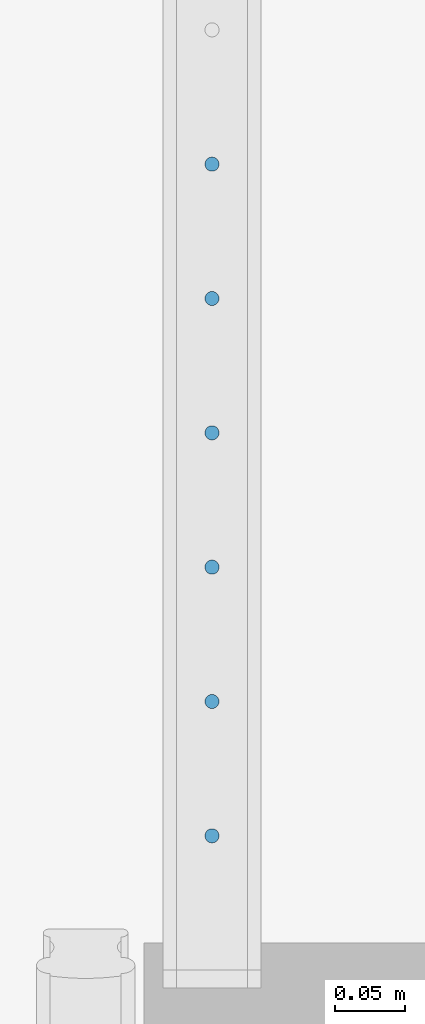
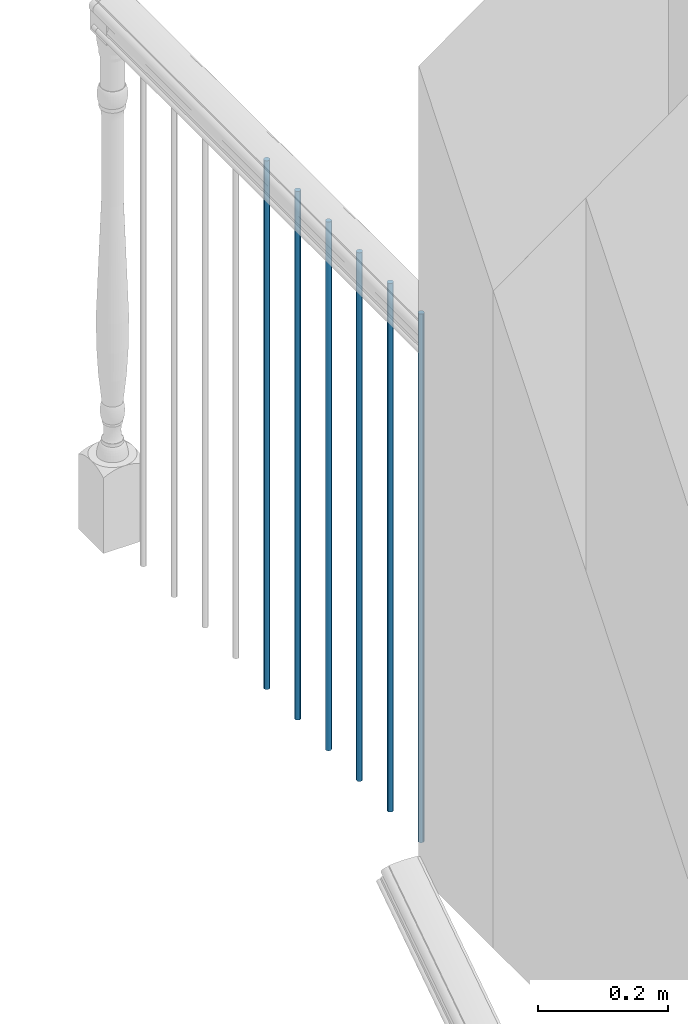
# One storey, part 25 of 77: 6 building element parts, 1 element without a shape of its own.
"""IFC2X3 building model written with IfcOpenShell, lengths in inches."""

from ifc_helpers import new_model, entity, si_unit, converted_unit, derived_unit, money_unit, direction, frame, origin_with_axes, place, context, subcontext, project, spatial, faceted_brep, material, type_object, element, aggregate, save


model = new_model("IFC2X3")

# Units and contexts
model_context = context("Model", 3, precision=0.000393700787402, world=origin_with_axes(), true_north=direction((0.0, 1.0)))
body_context = subcontext(model_context, "Body", "Model", "MODEL_VIEW")
ifc_project = project(units=[converted_unit("LENGTHUNIT", "INCH", entity("IfcPositiveLengthMeasure", 0.0254), si_unit("LENGTHUNIT", "METRE"), dimensions=[1, 0, 0, 0, 0, 0, 0]), converted_unit("AREAUNIT", "SQUARE_FOOT", entity("IfcPositiveLengthMeasure", 0.09290304), si_unit("AREAUNIT", "SQUARE_METRE"), dimensions=[2, 0, 0, 0, 0, 0, 0]), si_unit("PLANEANGLEUNIT", "RADIAN"), si_unit("SOLIDANGLEUNIT", "STERADIAN"), money_unit("USD"), converted_unit("TIMEUNIT", "Year", entity("IfcTimeMeasure", 31556926.0), si_unit("TIMEUNIT", "SECOND"), dimensions=[0, 0, 1, 0, 0, 0, 0]), si_unit("MASSUNIT", "GRAM", prefix="KILO"), si_unit("THERMODYNAMICTEMPERATUREUNIT", "DEGREE_CELSIUS"), si_unit("LUMINOUSINTENSITYUNIT", "LUMEN"), si_unit("ENERGYUNIT", "JOULE", prefix="MEGA"), derived_unit("THERMALCONDUCTANCEUNIT", [(si_unit("POWERUNIT", "WATT"), 1), (si_unit("LENGTHUNIT", "METRE"), -1), (si_unit("THERMODYNAMICTEMPERATUREUNIT", "KELVIN"), -1)]), derived_unit("SPECIFICHEATCAPACITYUNIT", [(si_unit("ENERGYUNIT", "JOULE"), 1), (si_unit("MASSUNIT", "GRAM", prefix="KILO"), -1), (si_unit("THERMODYNAMICTEMPERATUREUNIT", "KELVIN"), -1)]), derived_unit("MASSDENSITYUNIT", [(si_unit("MASSUNIT", "GRAM", prefix="KILO"), 1), (si_unit("VOLUMEUNIT", "CUBIC_METRE"), -1)])], contexts=[model_context])

# Site, building, storey
site_placement = place(None, origin_with_axes())
site = spatial("IfcSite", under=ifc_project, at=site_placement, Name="Site", CompositionType="ELEMENT")
building_placement = place(site_placement, origin_with_axes())
building = spatial("IfcBuilding", under=site, at=building_placement, Name="Building", CompositionType="ELEMENT")
storey_placement = place(building_placement, frame((0.0, 0.0, 127.952755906), z_axis=(0.0, 0.0, 1.0), x_axis=(1.0, 0.0, 0.0)))
storey = spatial("IfcBuildingStorey", under=building, at=storey_placement, Name="Second Floor", CompositionType="ELEMENT", Elevation=127.953)

# Railing, building element parts
railing_type = type_object("IfcRailingType", Name="Railing Type", PredefinedType="NOTDEFINED")
railing_placement = place(storey_placement, frame((726.989643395, 142.006727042, 0.0), z_axis=(0.0, 0.0, 1.0), x_axis=(-1.0, 0.0, 0.0)))
railing = element("IfcRailing", 1, at=railing_placement, inside=storey, type_object=railing_type, Name="RAILING - 001", PredefinedType="NOTDEFINED")
ifc_material = material(Name="Steel - Structural")
building_element_part_1_placement = place(railing_placement, origin_with_axes())
building_element_part_1 = element("IfcBuildingElementPart", 2, at=building_element_part_1_placement, material=ifc_material, Name="Steel - Structural", context=body_context, shape_type="Brep", body=[
    faceted_brep([(-1.96850393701, 18.5599108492, -4.94161422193e-07), (-1.93432122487, 18.562901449, -4.94161422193e-07), (-1.93432122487, 18.562901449, 39.2125984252), (-1.96850393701, 18.5599108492, 39.2125984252), (-2.00268664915, 18.562901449, -4.94161422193e-07), (-2.03583073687, 18.5717823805, -4.94161422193e-07), (-2.06692913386, 18.5862838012, -4.94161422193e-07), (-2.09503693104, 18.6059650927, -4.94161422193e-07), (-2.11930008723, 18.6302282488, -4.94161422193e-07), (-2.1389813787, 18.658336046, -4.94161422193e-07), (-2.15348279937, 18.689434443, -4.94161422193e-07), (-2.16236373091, 18.7225785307, -4.94161422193e-07), (-2.16535433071, 18.7567612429, -4.94161422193e-07), (-2.16236373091, 18.790943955, -4.94161422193e-07), (-2.15348279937, 18.8240880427, -4.94161422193e-07), (-2.1389813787, 18.8551864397, -4.94161422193e-07), (-2.11930008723, 18.8832942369, -4.94161422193e-07), (-2.09503693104, 18.9075573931, -4.94161422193e-07), (-2.06692913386, 18.9272386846, -4.94161422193e-07), (-2.03583073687, 18.9417401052, -4.94161422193e-07), (-2.00268664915, 18.9506210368, -4.94161422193e-07), (-1.96850393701, 18.9536116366, -4.94161422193e-07), (-1.93432122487, 18.9506210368, -4.94161422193e-07), (-1.90117713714, 18.9417401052, -4.94161422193e-07), (-1.87007874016, 18.9272386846, -4.94161422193e-07), (-1.84197094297, 18.9075573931, -4.94161422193e-07), (-1.81770778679, 18.8832942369, -4.94161422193e-07), (-1.79802649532, 18.8551864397, -4.94161422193e-07), (-1.78352507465, 18.8240880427, -4.94161422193e-07), (-1.77464414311, 18.790943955, -4.94161422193e-07), (-1.77165354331, 18.7567612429, -4.94161422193e-07), (-1.77464414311, 18.7225785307, -4.94161422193e-07), (-1.78352507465, 18.689434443, -4.94161422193e-07), (-1.79802649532, 18.658336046, -4.94161422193e-07), (-1.81770778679, 18.6302282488, -4.94161422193e-07), (-1.84197094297, 18.6059650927, -4.94161422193e-07), (-1.87007874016, 18.5862838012, -4.94161422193e-07), (-1.90117713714, 18.5717823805, -4.94161422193e-07), (-1.90117713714, 18.5717823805, 39.2125984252), (-1.87007874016, 18.5862838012, 39.2125984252), (-1.84197094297, 18.6059650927, 39.2125984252), (-1.81770778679, 18.6302282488, 39.2125984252), (-1.79802649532, 18.658336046, 39.2125984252), (-1.78352507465, 18.689434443, 39.2125984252), (-1.77464414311, 18.7225785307, 39.2125984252), (-1.77165354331, 18.7567612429, 39.2125984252), (-1.77464414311, 18.790943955, 39.2125984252), (-1.78352507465, 18.8240880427, 39.2125984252), (-1.79802649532, 18.8551864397, 39.2125984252), (-1.81770778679, 18.8832942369, 39.2125984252), (-1.84197094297, 18.9075573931, 39.2125984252), (-1.87007874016, 18.9272386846, 39.2125984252), (-1.90117713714, 18.9417401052, 39.2125984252), (-1.93432122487, 18.9506210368, 39.2125984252), (-1.96850393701, 18.9536116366, 39.2125984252), (-2.00268664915, 18.9506210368, 39.2125984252), (-2.03583073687, 18.9417401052, 39.2125984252), (-2.06692913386, 18.9272386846, 39.2125984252), (-2.09503693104, 18.9075573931, 39.2125984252), (-2.11930008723, 18.8832942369, 39.2125984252), (-2.1389813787, 18.8551864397, 39.2125984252), (-2.15348279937, 18.8240880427, 39.2125984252), (-2.16236373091, 18.790943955, 39.2125984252), (-2.16535433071, 18.7567612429, 39.2125984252), (-2.16236373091, 18.7225785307, 39.2125984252), (-2.15348279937, 18.689434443, 39.2125984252), (-2.1389813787, 18.658336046, 39.2125984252), (-2.11930008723, 18.6302282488, 39.2125984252), (-2.09503693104, 18.6059650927, 39.2125984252), (-2.06692913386, 18.5862838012, 39.2125984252), (-2.03583073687, 18.5717823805, 39.2125984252), (-2.00268664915, 18.562901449, 39.2125984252)], [[[0, 1, 2, 3]], [[0, 4, 5, 6, 7, 8, 9, 10, 11, 12, 13, 14, 15, 16, 17, 18, 19, 20, 21, 22, 23, 24, 25, 26, 27, 28, 29, 30, 31, 32, 33, 34, 35, 36, 37, 1]], [[1, 37, 38, 2]], [[3, 2, 38, 39, 40, 41, 42, 43, 44, 45, 46, 47, 48, 49, 50, 51, 52, 53, 54, 55, 56, 57, 58, 59, 60, 61, 62, 63, 64, 65, 66, 67, 68, 69, 70, 71]], [[4, 0, 3, 71]], [[5, 4, 71, 70]], [[6, 5, 70, 69]], [[7, 6, 69, 68]], [[8, 7, 68, 67]], [[9, 8, 67, 66]], [[10, 9, 66, 65]], [[11, 10, 65, 64]], [[12, 11, 64, 63]], [[13, 12, 63, 62]], [[14, 13, 62, 61]], [[15, 14, 61, 60]], [[16, 15, 60, 59]], [[17, 16, 59, 58]], [[18, 17, 58, 57]], [[19, 18, 57, 56]], [[20, 19, 56, 55]], [[21, 20, 55, 54]], [[22, 21, 54, 53]], [[23, 22, 53, 52]], [[24, 23, 52, 51]], [[25, 24, 51, 50]], [[26, 25, 50, 49]], [[27, 26, 49, 48]], [[28, 27, 48, 47]], [[29, 28, 47, 46]], [[30, 29, 46, 45]], [[31, 30, 45, 44]], [[32, 31, 44, 43]], [[33, 32, 43, 42]], [[34, 33, 42, 41]], [[35, 34, 41, 40]], [[36, 35, 40, 39]], [[37, 36, 39, 38]]]),
])
building_element_part_2_placement = place(railing_placement, origin_with_axes())
building_element_part_2 = element("IfcBuildingElementPart", 3, at=building_element_part_2_placement, material=ifc_material, Name="Steel - Structural", context=body_context, shape_type="Brep", body=[
    faceted_brep([(-1.96850393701, 22.3112630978, -4.94161422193e-07), (-1.93432122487, 22.3142536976, -4.94161422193e-07), (-1.93432122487, 22.3142536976, 39.2125984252), (-1.96850393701, 22.3112630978, 39.2125984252), (-2.00268664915, 22.3142536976, -4.94161422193e-07), (-2.03583073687, 22.3231346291, -4.94161422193e-07), (-2.06692913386, 22.3376360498, -4.94161422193e-07), (-2.09503693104, 22.3573173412, -4.94161422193e-07), (-2.11930008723, 22.3815804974, -4.94161422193e-07), (-2.1389813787, 22.4096882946, -4.94161422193e-07), (-2.15348279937, 22.4407866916, -4.94161422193e-07), (-2.16236373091, 22.4739307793, -4.94161422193e-07), (-2.16535433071, 22.5081134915, -4.94161422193e-07), (-2.16236373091, 22.5422962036, -4.94161422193e-07), (-2.15348279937, 22.5754402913, -4.94161422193e-07), (-2.1389813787, 22.6065386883, -4.94161422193e-07), (-2.11930008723, 22.6346464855, -4.94161422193e-07), (-2.09503693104, 22.6589096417, -4.94161422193e-07), (-2.06692913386, 22.6785909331, -4.94161422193e-07), (-2.03583073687, 22.6930923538, -4.94161422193e-07), (-2.00268664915, 22.7019732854, -4.94161422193e-07), (-1.96850393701, 22.7049638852, -4.94161422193e-07), (-1.93432122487, 22.7019732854, -4.94161422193e-07), (-1.90117713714, 22.6930923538, -4.94161422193e-07), (-1.87007874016, 22.6785909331, -4.94161422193e-07), (-1.84197094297, 22.6589096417, -4.94161422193e-07), (-1.81770778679, 22.6346464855, -4.94161422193e-07), (-1.79802649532, 22.6065386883, -4.94161422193e-07), (-1.78352507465, 22.5754402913, -4.94161422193e-07), (-1.77464414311, 22.5422962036, -4.94161422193e-07), (-1.77165354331, 22.5081134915, -4.94161422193e-07), (-1.77464414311, 22.4739307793, -4.94161422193e-07), (-1.78352507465, 22.4407866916, -4.94161422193e-07), (-1.79802649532, 22.4096882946, -4.94161422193e-07), (-1.81770778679, 22.3815804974, -4.94161422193e-07), (-1.84197094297, 22.3573173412, -4.94161422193e-07), (-1.87007874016, 22.3376360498, -4.94161422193e-07), (-1.90117713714, 22.3231346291, -4.94161422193e-07), (-1.90117713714, 22.3231346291, 39.2125984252), (-1.87007874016, 22.3376360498, 39.2125984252), (-1.84197094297, 22.3573173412, 39.2125984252), (-1.81770778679, 22.3815804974, 39.2125984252), (-1.79802649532, 22.4096882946, 39.2125984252), (-1.78352507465, 22.4407866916, 39.2125984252), (-1.77464414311, 22.4739307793, 39.2125984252), (-1.77165354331, 22.5081134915, 39.2125984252), (-1.77464414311, 22.5422962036, 39.2125984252), (-1.78352507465, 22.5754402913, 39.2125984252), (-1.79802649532, 22.6065386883, 39.2125984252), (-1.81770778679, 22.6346464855, 39.2125984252), (-1.84197094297, 22.6589096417, 39.2125984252), (-1.87007874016, 22.6785909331, 39.2125984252), (-1.90117713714, 22.6930923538, 39.2125984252), (-1.93432122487, 22.7019732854, 39.2125984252), (-1.96850393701, 22.7049638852, 39.2125984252), (-2.00268664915, 22.7019732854, 39.2125984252), (-2.03583073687, 22.6930923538, 39.2125984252), (-2.06692913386, 22.6785909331, 39.2125984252), (-2.09503693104, 22.6589096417, 39.2125984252), (-2.11930008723, 22.6346464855, 39.2125984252), (-2.1389813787, 22.6065386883, 39.2125984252), (-2.15348279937, 22.5754402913, 39.2125984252), (-2.16236373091, 22.5422962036, 39.2125984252), (-2.16535433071, 22.5081134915, 39.2125984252), (-2.16236373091, 22.4739307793, 39.2125984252), (-2.15348279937, 22.4407866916, 39.2125984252), (-2.1389813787, 22.4096882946, 39.2125984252), (-2.11930008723, 22.3815804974, 39.2125984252), (-2.09503693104, 22.3573173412, 39.2125984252), (-2.06692913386, 22.3376360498, 39.2125984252), (-2.03583073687, 22.3231346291, 39.2125984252), (-2.00268664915, 22.3142536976, 39.2125984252)], [[[0, 1, 2, 3]], [[0, 4, 5, 6, 7, 8, 9, 10, 11, 12, 13, 14, 15, 16, 17, 18, 19, 20, 21, 22, 23, 24, 25, 26, 27, 28, 29, 30, 31, 32, 33, 34, 35, 36, 37, 1]], [[1, 37, 38, 2]], [[3, 2, 38, 39, 40, 41, 42, 43, 44, 45, 46, 47, 48, 49, 50, 51, 52, 53, 54, 55, 56, 57, 58, 59, 60, 61, 62, 63, 64, 65, 66, 67, 68, 69, 70, 71]], [[4, 0, 3, 71]], [[5, 4, 71, 70]], [[6, 5, 70, 69]], [[7, 6, 69, 68]], [[8, 7, 68, 67]], [[9, 8, 67, 66]], [[10, 9, 66, 65]], [[11, 10, 65, 64]], [[12, 11, 64, 63]], [[13, 12, 63, 62]], [[14, 13, 62, 61]], [[15, 14, 61, 60]], [[16, 15, 60, 59]], [[17, 16, 59, 58]], [[18, 17, 58, 57]], [[19, 18, 57, 56]], [[20, 19, 56, 55]], [[21, 20, 55, 54]], [[22, 21, 54, 53]], [[23, 22, 53, 52]], [[24, 23, 52, 51]], [[25, 24, 51, 50]], [[26, 25, 50, 49]], [[27, 26, 49, 48]], [[28, 27, 48, 47]], [[29, 28, 47, 46]], [[30, 29, 46, 45]], [[31, 30, 45, 44]], [[32, 31, 44, 43]], [[33, 32, 43, 42]], [[34, 33, 42, 41]], [[35, 34, 41, 40]], [[36, 35, 40, 39]], [[37, 36, 39, 38]]]),
])
building_element_part_3_placement = place(railing_placement, origin_with_axes())
building_element_part_3 = element("IfcBuildingElementPart", 4, at=building_element_part_3_placement, material=ifc_material, Name="Steel - Structural", context=body_context, shape_type="Brep", body=[
    faceted_brep([(-1.96850393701, 26.0626153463, -4.94161422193e-07), (-1.93432122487, 26.0656059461, -4.94161422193e-07), (-1.93432122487, 26.0656059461, 39.2125984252), (-1.96850393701, 26.0626153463, 39.2125984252), (-2.00268664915, 26.0656059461, -4.94161422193e-07), (-2.03583073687, 26.0744868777, -4.94161422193e-07), (-2.06692913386, 26.0889882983, -4.94161422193e-07), (-2.09503693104, 26.1086695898, -4.94161422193e-07), (-2.11930008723, 26.132932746, -4.94161422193e-07), (-2.1389813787, 26.1610405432, -4.94161422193e-07), (-2.15348279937, 26.1921389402, -4.94161422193e-07), (-2.16236373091, 26.2252830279, -4.94161422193e-07), (-2.16535433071, 26.25946574, -4.94161422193e-07), (-2.16236373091, 26.2936484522, -4.94161422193e-07), (-2.15348279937, 26.3267925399, -4.94161422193e-07), (-2.1389813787, 26.3578909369, -4.94161422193e-07), (-2.11930008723, 26.3859987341, -4.94161422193e-07), (-2.09503693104, 26.4102618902, -4.94161422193e-07), (-2.06692913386, 26.4299431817, -4.94161422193e-07), (-2.03583073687, 26.4444446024, -4.94161422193e-07), (-2.00268664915, 26.4533255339, -4.94161422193e-07), (-1.96850393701, 26.4563161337, -4.94161422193e-07), (-1.93432122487, 26.4533255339, -4.94161422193e-07), (-1.90117713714, 26.4444446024, -4.94161422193e-07), (-1.87007874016, 26.4299431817, -4.94161422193e-07), (-1.84197094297, 26.4102618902, -4.94161422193e-07), (-1.81770778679, 26.3859987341, -4.94161422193e-07), (-1.79802649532, 26.3578909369, -4.94161422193e-07), (-1.78352507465, 26.3267925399, -4.94161422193e-07), (-1.77464414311, 26.2936484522, -4.94161422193e-07), (-1.77165354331, 26.25946574, -4.94161422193e-07), (-1.77464414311, 26.2252830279, -4.94161422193e-07), (-1.78352507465, 26.1921389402, -4.94161422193e-07), (-1.79802649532, 26.1610405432, -4.94161422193e-07), (-1.81770778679, 26.132932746, -4.94161422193e-07), (-1.84197094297, 26.1086695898, -4.94161422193e-07), (-1.87007874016, 26.0889882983, -4.94161422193e-07), (-1.90117713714, 26.0744868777, -4.94161422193e-07), (-1.90117713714, 26.0744868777, 39.2125984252), (-1.87007874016, 26.0889882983, 39.2125984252), (-1.84197094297, 26.1086695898, 39.2125984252), (-1.81770778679, 26.132932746, 39.2125984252), (-1.79802649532, 26.1610405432, 39.2125984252), (-1.78352507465, 26.1921389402, 39.2125984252), (-1.77464414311, 26.2252830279, 39.2125984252), (-1.77165354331, 26.25946574, 39.2125984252), (-1.77464414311, 26.2936484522, 39.2125984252), (-1.78352507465, 26.3267925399, 39.2125984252), (-1.79802649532, 26.3578909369, 39.2125984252), (-1.81770778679, 26.3859987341, 39.2125984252), (-1.84197094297, 26.4102618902, 39.2125984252), (-1.87007874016, 26.4299431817, 39.2125984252), (-1.90117713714, 26.4444446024, 39.2125984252), (-1.93432122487, 26.4533255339, 39.2125984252), (-1.96850393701, 26.4563161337, 39.2125984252), (-2.00268664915, 26.4533255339, 39.2125984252), (-2.03583073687, 26.4444446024, 39.2125984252), (-2.06692913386, 26.4299431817, 39.2125984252), (-2.09503693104, 26.4102618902, 39.2125984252), (-2.11930008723, 26.3859987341, 39.2125984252), (-2.1389813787, 26.3578909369, 39.2125984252), (-2.15348279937, 26.3267925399, 39.2125984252), (-2.16236373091, 26.2936484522, 39.2125984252), (-2.16535433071, 26.25946574, 39.2125984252), (-2.16236373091, 26.2252830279, 39.2125984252), (-2.15348279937, 26.1921389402, 39.2125984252), (-2.1389813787, 26.1610405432, 39.2125984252), (-2.11930008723, 26.132932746, 39.2125984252), (-2.09503693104, 26.1086695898, 39.2125984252), (-2.06692913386, 26.0889882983, 39.2125984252), (-2.03583073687, 26.0744868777, 39.2125984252), (-2.00268664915, 26.0656059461, 39.2125984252)], [[[0, 1, 2, 3]], [[0, 4, 5, 6, 7, 8, 9, 10, 11, 12, 13, 14, 15, 16, 17, 18, 19, 20, 21, 22, 23, 24, 25, 26, 27, 28, 29, 30, 31, 32, 33, 34, 35, 36, 37, 1]], [[1, 37, 38, 2]], [[3, 2, 38, 39, 40, 41, 42, 43, 44, 45, 46, 47, 48, 49, 50, 51, 52, 53, 54, 55, 56, 57, 58, 59, 60, 61, 62, 63, 64, 65, 66, 67, 68, 69, 70, 71]], [[4, 0, 3, 71]], [[5, 4, 71, 70]], [[6, 5, 70, 69]], [[7, 6, 69, 68]], [[8, 7, 68, 67]], [[9, 8, 67, 66]], [[10, 9, 66, 65]], [[11, 10, 65, 64]], [[12, 11, 64, 63]], [[13, 12, 63, 62]], [[14, 13, 62, 61]], [[15, 14, 61, 60]], [[16, 15, 60, 59]], [[17, 16, 59, 58]], [[18, 17, 58, 57]], [[19, 18, 57, 56]], [[20, 19, 56, 55]], [[21, 20, 55, 54]], [[22, 21, 54, 53]], [[23, 22, 53, 52]], [[24, 23, 52, 51]], [[25, 24, 51, 50]], [[26, 25, 50, 49]], [[27, 26, 49, 48]], [[28, 27, 48, 47]], [[29, 28, 47, 46]], [[30, 29, 46, 45]], [[31, 30, 45, 44]], [[32, 31, 44, 43]], [[33, 32, 43, 42]], [[34, 33, 42, 41]], [[35, 34, 41, 40]], [[36, 35, 40, 39]], [[37, 36, 39, 38]]]),
])
building_element_part_4_placement = place(railing_placement, origin_with_axes())
building_element_part_4 = element("IfcBuildingElementPart", 5, at=building_element_part_4_placement, material=ifc_material, Name="Steel - Structural", context=body_context, shape_type="Brep", body=[
    faceted_brep([(-1.96850393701, 29.8139675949, -4.94161422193e-07), (-1.93432122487, 29.8169581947, -4.94161422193e-07), (-1.93432122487, 29.8169581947, 39.2125984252), (-1.96850393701, 29.8139675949, 39.2125984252), (-2.00268664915, 29.8169581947, -4.94161422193e-07), (-2.03583073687, 29.8258391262, -4.94161422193e-07), (-2.06692913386, 29.8403405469, -4.94161422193e-07), (-2.09503693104, 29.8600218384, -4.94161422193e-07), (-2.11930008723, 29.8842849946, -4.94161422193e-07), (-2.1389813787, 29.9123927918, -4.94161422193e-07), (-2.15348279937, 29.9434911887, -4.94161422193e-07), (-2.16236373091, 29.9766352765, -4.94161422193e-07), (-2.16535433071, 30.0108179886, -4.94161422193e-07), (-2.16236373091, 30.0450007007, -4.94161422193e-07), (-2.15348279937, 30.0781447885, -4.94161422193e-07), (-2.1389813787, 30.1092431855, -4.94161422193e-07), (-2.11930008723, 30.1373509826, -4.94161422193e-07), (-2.09503693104, 30.1616141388, -4.94161422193e-07), (-2.06692913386, 30.1812954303, -4.94161422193e-07), (-2.03583073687, 30.195796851, -4.94161422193e-07), (-2.00268664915, 30.2046777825, -4.94161422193e-07), (-1.96850393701, 30.2076683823, -4.94161422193e-07), (-1.93432122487, 30.2046777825, -4.94161422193e-07), (-1.90117713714, 30.195796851, -4.94161422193e-07), (-1.87007874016, 30.1812954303, -4.94161422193e-07), (-1.84197094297, 30.1616141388, -4.94161422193e-07), (-1.81770778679, 30.1373509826, -4.94161422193e-07), (-1.79802649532, 30.1092431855, -4.94161422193e-07), (-1.78352507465, 30.0781447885, -4.94161422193e-07), (-1.77464414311, 30.0450007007, -4.94161422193e-07), (-1.77165354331, 30.0108179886, -4.94161422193e-07), (-1.77464414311, 29.9766352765, -4.94161422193e-07), (-1.78352507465, 29.9434911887, -4.94161422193e-07), (-1.79802649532, 29.9123927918, -4.94161422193e-07), (-1.81770778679, 29.8842849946, -4.94161422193e-07), (-1.84197094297, 29.8600218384, -4.94161422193e-07), (-1.87007874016, 29.8403405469, -4.94161422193e-07), (-1.90117713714, 29.8258391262, -4.94161422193e-07), (-1.90117713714, 29.8258391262, 39.2125984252), (-1.87007874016, 29.8403405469, 39.2125984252), (-1.84197094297, 29.8600218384, 39.2125984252), (-1.81770778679, 29.8842849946, 39.2125984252), (-1.79802649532, 29.9123927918, 39.2125984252), (-1.78352507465, 29.9434911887, 39.2125984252), (-1.77464414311, 29.9766352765, 39.2125984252), (-1.77165354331, 30.0108179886, 39.2125984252), (-1.77464414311, 30.0450007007, 39.2125984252), (-1.78352507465, 30.0781447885, 39.2125984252), (-1.79802649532, 30.1092431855, 39.2125984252), (-1.81770778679, 30.1373509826, 39.2125984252), (-1.84197094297, 30.1616141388, 39.2125984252), (-1.87007874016, 30.1812954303, 39.2125984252), (-1.90117713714, 30.195796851, 39.2125984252), (-1.93432122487, 30.2046777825, 39.2125984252), (-1.96850393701, 30.2076683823, 39.2125984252), (-2.00268664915, 30.2046777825, 39.2125984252), (-2.03583073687, 30.195796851, 39.2125984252), (-2.06692913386, 30.1812954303, 39.2125984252), (-2.09503693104, 30.1616141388, 39.2125984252), (-2.11930008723, 30.1373509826, 39.2125984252), (-2.1389813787, 30.1092431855, 39.2125984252), (-2.15348279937, 30.0781447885, 39.2125984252), (-2.16236373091, 30.0450007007, 39.2125984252), (-2.16535433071, 30.0108179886, 39.2125984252), (-2.16236373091, 29.9766352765, 39.2125984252), (-2.15348279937, 29.9434911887, 39.2125984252), (-2.1389813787, 29.9123927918, 39.2125984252), (-2.11930008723, 29.8842849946, 39.2125984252), (-2.09503693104, 29.8600218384, 39.2125984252), (-2.06692913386, 29.8403405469, 39.2125984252), (-2.03583073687, 29.8258391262, 39.2125984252), (-2.00268664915, 29.8169581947, 39.2125984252)], [[[0, 1, 2, 3]], [[0, 4, 5, 6, 7, 8, 9, 10, 11, 12, 13, 14, 15, 16, 17, 18, 19, 20, 21, 22, 23, 24, 25, 26, 27, 28, 29, 30, 31, 32, 33, 34, 35, 36, 37, 1]], [[1, 37, 38, 2]], [[3, 2, 38, 39, 40, 41, 42, 43, 44, 45, 46, 47, 48, 49, 50, 51, 52, 53, 54, 55, 56, 57, 58, 59, 60, 61, 62, 63, 64, 65, 66, 67, 68, 69, 70, 71]], [[4, 0, 3, 71]], [[5, 4, 71, 70]], [[6, 5, 70, 69]], [[7, 6, 69, 68]], [[8, 7, 68, 67]], [[9, 8, 67, 66]], [[10, 9, 66, 65]], [[11, 10, 65, 64]], [[12, 11, 64, 63]], [[13, 12, 63, 62]], [[14, 13, 62, 61]], [[15, 14, 61, 60]], [[16, 15, 60, 59]], [[17, 16, 59, 58]], [[18, 17, 58, 57]], [[19, 18, 57, 56]], [[20, 19, 56, 55]], [[21, 20, 55, 54]], [[22, 21, 54, 53]], [[23, 22, 53, 52]], [[24, 23, 52, 51]], [[25, 24, 51, 50]], [[26, 25, 50, 49]], [[27, 26, 49, 48]], [[28, 27, 48, 47]], [[29, 28, 47, 46]], [[30, 29, 46, 45]], [[31, 30, 45, 44]], [[32, 31, 44, 43]], [[33, 32, 43, 42]], [[34, 33, 42, 41]], [[35, 34, 41, 40]], [[36, 35, 40, 39]], [[37, 36, 39, 38]]]),
])
building_element_part_5_placement = place(railing_placement, origin_with_axes())
building_element_part_5 = element("IfcBuildingElementPart", 6, at=building_element_part_5_placement, material=ifc_material, Name="Steel - Structural", context=body_context, shape_type="Brep", body=[
    faceted_brep([(-1.96850393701, 33.5653198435, -4.94161422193e-07), (-1.93432122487, 33.5683104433, -4.94161422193e-07), (-1.93432122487, 33.5683104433, 39.2125984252), (-1.96850393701, 33.5653198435, 39.2125984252), (-2.00268664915, 33.5683104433, -4.94161422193e-07), (-2.03583073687, 33.5771913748, -4.94161422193e-07), (-2.06692913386, 33.5916927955, -4.94161422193e-07), (-2.09503693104, 33.611374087, -4.94161422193e-07), (-2.11930008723, 33.6356372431, -4.94161422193e-07), (-2.1389813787, 33.6637450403, -4.94161422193e-07), (-2.15348279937, 33.6948434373, -4.94161422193e-07), (-2.16236373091, 33.727987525, -4.94161422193e-07), (-2.16535433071, 33.7621702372, -4.94161422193e-07), (-2.16236373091, 33.7963529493, -4.94161422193e-07), (-2.15348279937, 33.829497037, -4.94161422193e-07), (-2.1389813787, 33.860595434, -4.94161422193e-07), (-2.11930008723, 33.8887032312, -4.94161422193e-07), (-2.09503693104, 33.9129663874, -4.94161422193e-07), (-2.06692913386, 33.9326476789, -4.94161422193e-07), (-2.03583073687, 33.9471490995, -4.94161422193e-07), (-2.00268664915, 33.9560300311, -4.94161422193e-07), (-1.96850393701, 33.9590206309, -4.94161422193e-07), (-1.93432122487, 33.9560300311, -4.94161422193e-07), (-1.90117713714, 33.9471490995, -4.94161422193e-07), (-1.87007874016, 33.9326476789, -4.94161422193e-07), (-1.84197094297, 33.9129663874, -4.94161422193e-07), (-1.81770778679, 33.8887032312, -4.94161422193e-07), (-1.79802649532, 33.860595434, -4.94161422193e-07), (-1.78352507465, 33.829497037, -4.94161422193e-07), (-1.77464414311, 33.7963529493, -4.94161422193e-07), (-1.77165354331, 33.7621702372, -4.94161422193e-07), (-1.77464414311, 33.727987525, -4.94161422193e-07), (-1.78352507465, 33.6948434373, -4.94161422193e-07), (-1.79802649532, 33.6637450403, -4.94161422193e-07), (-1.81770778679, 33.6356372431, -4.94161422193e-07), (-1.84197094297, 33.611374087, -4.94161422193e-07), (-1.87007874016, 33.5916927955, -4.94161422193e-07), (-1.90117713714, 33.5771913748, -4.94161422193e-07), (-1.90117713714, 33.5771913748, 39.2125984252), (-1.87007874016, 33.5916927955, 39.2125984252), (-1.84197094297, 33.611374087, 39.2125984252), (-1.81770778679, 33.6356372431, 39.2125984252), (-1.79802649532, 33.6637450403, 39.2125984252), (-1.78352507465, 33.6948434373, 39.2125984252), (-1.77464414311, 33.727987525, 39.2125984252), (-1.77165354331, 33.7621702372, 39.2125984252), (-1.77464414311, 33.7963529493, 39.2125984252), (-1.78352507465, 33.829497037, 39.2125984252), (-1.79802649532, 33.860595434, 39.2125984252), (-1.81770778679, 33.8887032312, 39.2125984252), (-1.84197094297, 33.9129663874, 39.2125984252), (-1.87007874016, 33.9326476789, 39.2125984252), (-1.90117713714, 33.9471490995, 39.2125984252), (-1.93432122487, 33.9560300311, 39.2125984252), (-1.96850393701, 33.9590206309, 39.2125984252), (-2.00268664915, 33.9560300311, 39.2125984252), (-2.03583073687, 33.9471490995, 39.2125984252), (-2.06692913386, 33.9326476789, 39.2125984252), (-2.09503693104, 33.9129663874, 39.2125984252), (-2.11930008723, 33.8887032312, 39.2125984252), (-2.1389813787, 33.860595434, 39.2125984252), (-2.15348279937, 33.829497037, 39.2125984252), (-2.16236373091, 33.7963529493, 39.2125984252), (-2.16535433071, 33.7621702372, 39.2125984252), (-2.16236373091, 33.727987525, 39.2125984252), (-2.15348279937, 33.6948434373, 39.2125984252), (-2.1389813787, 33.6637450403, 39.2125984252), (-2.11930008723, 33.6356372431, 39.2125984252), (-2.09503693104, 33.611374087, 39.2125984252), (-2.06692913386, 33.5916927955, 39.2125984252), (-2.03583073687, 33.5771913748, 39.2125984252), (-2.00268664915, 33.5683104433, 39.2125984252)], [[[0, 1, 2, 3]], [[0, 4, 5, 6, 7, 8, 9, 10, 11, 12, 13, 14, 15, 16, 17, 18, 19, 20, 21, 22, 23, 24, 25, 26, 27, 28, 29, 30, 31, 32, 33, 34, 35, 36, 37, 1]], [[1, 37, 38, 2]], [[3, 2, 38, 39, 40, 41, 42, 43, 44, 45, 46, 47, 48, 49, 50, 51, 52, 53, 54, 55, 56, 57, 58, 59, 60, 61, 62, 63, 64, 65, 66, 67, 68, 69, 70, 71]], [[4, 0, 3, 71]], [[5, 4, 71, 70]], [[6, 5, 70, 69]], [[7, 6, 69, 68]], [[8, 7, 68, 67]], [[9, 8, 67, 66]], [[10, 9, 66, 65]], [[11, 10, 65, 64]], [[12, 11, 64, 63]], [[13, 12, 63, 62]], [[14, 13, 62, 61]], [[15, 14, 61, 60]], [[16, 15, 60, 59]], [[17, 16, 59, 58]], [[18, 17, 58, 57]], [[19, 18, 57, 56]], [[20, 19, 56, 55]], [[21, 20, 55, 54]], [[22, 21, 54, 53]], [[23, 22, 53, 52]], [[24, 23, 52, 51]], [[25, 24, 51, 50]], [[26, 25, 50, 49]], [[27, 26, 49, 48]], [[28, 27, 48, 47]], [[29, 28, 47, 46]], [[30, 29, 46, 45]], [[31, 30, 45, 44]], [[32, 31, 44, 43]], [[33, 32, 43, 42]], [[34, 33, 42, 41]], [[35, 34, 41, 40]], [[36, 35, 40, 39]], [[37, 36, 39, 38]]]),
])
building_element_part_6_placement = place(railing_placement, origin_with_axes())
building_element_part_6 = element("IfcBuildingElementPart", 7, at=building_element_part_6_placement, material=ifc_material, Name="Steel - Structural", context=body_context, shape_type="Brep", body=[
    faceted_brep([(-1.96850393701, 37.3166720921, -4.94161422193e-07), (-1.93432122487, 37.3196626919, -4.94161422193e-07), (-1.93432122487, 37.3196626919, 39.2125984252), (-1.96850393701, 37.3166720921, 39.2125984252), (-2.00268664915, 37.3196626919, -4.94161422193e-07), (-2.03583073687, 37.3285436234, -4.94161422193e-07), (-2.06692913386, 37.3430450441, -4.94161422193e-07), (-2.09503693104, 37.3627263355, -4.94161422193e-07), (-2.11930008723, 37.3869894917, -4.94161422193e-07), (-2.1389813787, 37.4150972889, -4.94161422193e-07), (-2.15348279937, 37.4461956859, -4.94161422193e-07), (-2.16236373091, 37.4793397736, -4.94161422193e-07), (-2.16535433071, 37.5135224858, -4.94161422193e-07), (-2.16236373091, 37.5477051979, -4.94161422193e-07), (-2.15348279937, 37.5808492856, -4.94161422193e-07), (-2.1389813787, 37.6119476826, -4.94161422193e-07), (-2.11930008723, 37.6400554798, -4.94161422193e-07), (-2.09503693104, 37.664318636, -4.94161422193e-07), (-2.06692913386, 37.6839999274, -4.94161422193e-07), (-2.03583073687, 37.6985013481, -4.94161422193e-07), (-2.00268664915, 37.7073822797, -4.94161422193e-07), (-1.96850393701, 37.7103728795, -4.94161422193e-07), (-1.93432122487, 37.7073822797, -4.94161422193e-07), (-1.90117713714, 37.6985013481, -4.94161422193e-07), (-1.87007874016, 37.6839999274, -4.94161422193e-07), (-1.84197094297, 37.664318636, -4.94161422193e-07), (-1.81770778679, 37.6400554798, -4.94161422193e-07), (-1.79802649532, 37.6119476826, -4.94161422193e-07), (-1.78352507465, 37.5808492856, -4.94161422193e-07), (-1.77464414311, 37.5477051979, -4.94161422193e-07), (-1.77165354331, 37.5135224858, -4.94161422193e-07), (-1.77464414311, 37.4793397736, -4.94161422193e-07), (-1.78352507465, 37.4461956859, -4.94161422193e-07), (-1.79802649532, 37.4150972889, -4.94161422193e-07), (-1.81770778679, 37.3869894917, -4.94161422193e-07), (-1.84197094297, 37.3627263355, -4.94161422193e-07), (-1.87007874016, 37.3430450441, -4.94161422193e-07), (-1.90117713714, 37.3285436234, -4.94161422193e-07), (-1.90117713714, 37.3285436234, 39.2125984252), (-1.87007874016, 37.3430450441, 39.2125984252), (-1.84197094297, 37.3627263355, 39.2125984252), (-1.81770778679, 37.3869894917, 39.2125984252), (-1.79802649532, 37.4150972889, 39.2125984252), (-1.78352507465, 37.4461956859, 39.2125984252), (-1.77464414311, 37.4793397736, 39.2125984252), (-1.77165354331, 37.5135224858, 39.2125984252), (-1.77464414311, 37.5477051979, 39.2125984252), (-1.78352507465, 37.5808492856, 39.2125984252), (-1.79802649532, 37.6119476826, 39.2125984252), (-1.81770778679, 37.6400554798, 39.2125984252), (-1.84197094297, 37.664318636, 39.2125984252), (-1.87007874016, 37.6839999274, 39.2125984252), (-1.90117713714, 37.6985013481, 39.2125984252), (-1.93432122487, 37.7073822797, 39.2125984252), (-1.96850393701, 37.7103728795, 39.2125984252), (-2.00268664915, 37.7073822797, 39.2125984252), (-2.03583073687, 37.6985013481, 39.2125984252), (-2.06692913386, 37.6839999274, 39.2125984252), (-2.09503693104, 37.664318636, 39.2125984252), (-2.11930008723, 37.6400554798, 39.2125984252), (-2.1389813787, 37.6119476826, 39.2125984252), (-2.15348279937, 37.5808492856, 39.2125984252), (-2.16236373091, 37.5477051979, 39.2125984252), (-2.16535433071, 37.5135224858, 39.2125984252), (-2.16236373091, 37.4793397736, 39.2125984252), (-2.15348279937, 37.4461956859, 39.2125984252), (-2.1389813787, 37.4150972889, 39.2125984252), (-2.11930008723, 37.3869894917, 39.2125984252), (-2.09503693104, 37.3627263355, 39.2125984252), (-2.06692913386, 37.3430450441, 39.2125984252), (-2.03583073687, 37.3285436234, 39.2125984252), (-2.00268664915, 37.3196626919, 39.2125984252)], [[[0, 1, 2, 3]], [[0, 4, 5, 6, 7, 8, 9, 10, 11, 12, 13, 14, 15, 16, 17, 18, 19, 20, 21, 22, 23, 24, 25, 26, 27, 28, 29, 30, 31, 32, 33, 34, 35, 36, 37, 1]], [[1, 37, 38, 2]], [[3, 2, 38, 39, 40, 41, 42, 43, 44, 45, 46, 47, 48, 49, 50, 51, 52, 53, 54, 55, 56, 57, 58, 59, 60, 61, 62, 63, 64, 65, 66, 67, 68, 69, 70, 71]], [[4, 0, 3, 71]], [[5, 4, 71, 70]], [[6, 5, 70, 69]], [[7, 6, 69, 68]], [[8, 7, 68, 67]], [[9, 8, 67, 66]], [[10, 9, 66, 65]], [[11, 10, 65, 64]], [[12, 11, 64, 63]], [[13, 12, 63, 62]], [[14, 13, 62, 61]], [[15, 14, 61, 60]], [[16, 15, 60, 59]], [[17, 16, 59, 58]], [[18, 17, 58, 57]], [[19, 18, 57, 56]], [[20, 19, 56, 55]], [[21, 20, 55, 54]], [[22, 21, 54, 53]], [[23, 22, 53, 52]], [[24, 23, 52, 51]], [[25, 24, 51, 50]], [[26, 25, 50, 49]], [[27, 26, 49, 48]], [[28, 27, 48, 47]], [[29, 28, 47, 46]], [[30, 29, 46, 45]], [[31, 30, 45, 44]], [[32, 31, 44, 43]], [[33, 32, 43, 42]], [[34, 33, 42, 41]], [[35, 34, 41, 40]], [[36, 35, 40, 39]], [[37, 36, 39, 38]]]),
])
aggregate(railing, [building_element_part_1, building_element_part_2, building_element_part_3, building_element_part_4, building_element_part_5, building_element_part_6])

save(model, "model.ifc")
